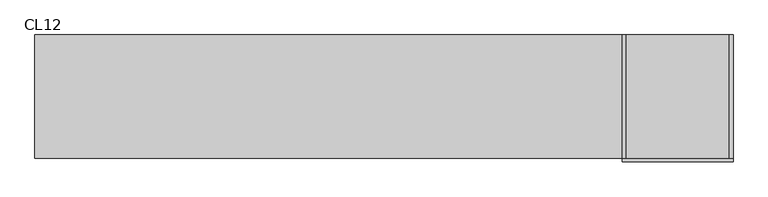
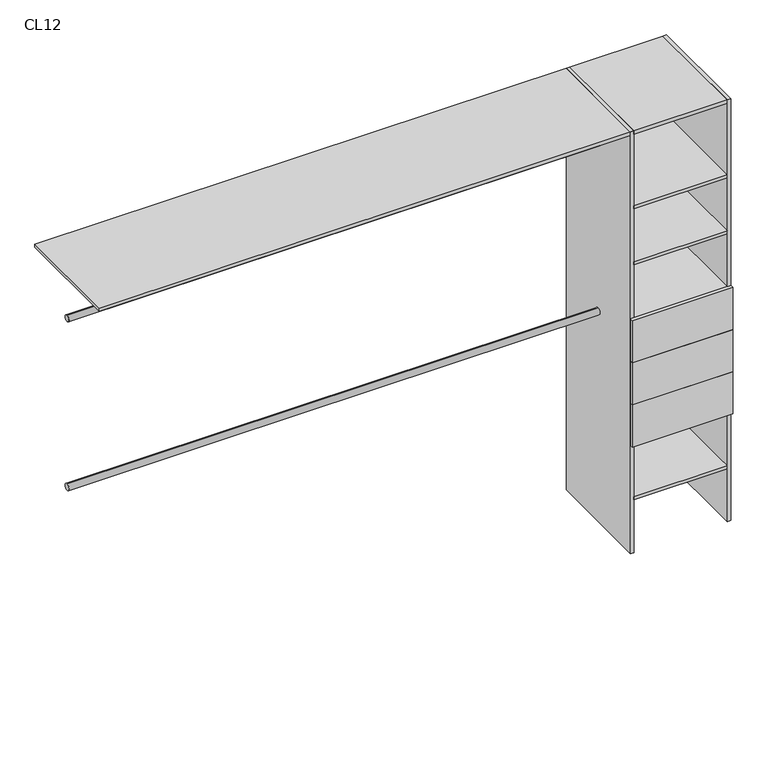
"""IFC4 building model written with IfcOpenShell, lengths in millimetres: furniture geometry, Closet 1estantes-1tubos_sin laterales : CL12."""

import ifcopenshell
import ifcopenshell.guid

model = None  # the IFC model being written
_history = None  # IfcOwnerHistory: only IFC2X3 demands one
_inside = {}  # id of a spatial element -> (the spatial element, [elements in it])
_under = {}  # id of a project, library or spatial element -> (it, [spatial elements below it])
_declared = {}  # id of a project -> (the project, [libraries it declares])
_typed = {}  # id of a type object -> (the type object, [elements of that type])
_made_of = {}  # id of a material, layer set ... -> (it, [elements and type objects made of it])


def new_model(schema):
    """Start an empty IFC model of exactly this schema.

    Asked for "IFC4X3", IfcOpenShell would pick the latest addendum, in which some entities
    have other attributes; the version numbers below select the first issue.
    IFC2X3 requires an IfcOwnerHistory on every rooted entity: one is made here for all.
    """
    global model, _history
    if schema == "IFC4X3":
        model = ifcopenshell.file(schema_version=(4, 3, 0, 0))
    else:
        model = ifcopenshell.file(schema=schema)
    _inside.clear()
    _under.clear()
    _declared.clear()
    _typed.clear()
    _made_of.clear()
    _history = None
    if model.schema == "IFC2X3":
        org = make("IfcOrganization", Name="unknown")
        user = make(
            "IfcPersonAndOrganization",
            ThePerson=make("IfcPerson", FamilyName="unknown"),
            TheOrganization=org,
        )
        app = make(
            "IfcApplication",
            ApplicationDeveloper=org,
            Version="unknown",
            ApplicationFullName="unknown",
            ApplicationIdentifier="unknown",
        )
        _history = make(
            "IfcOwnerHistory",
            OwningUser=user,
            OwningApplication=app,
            ChangeAction="ADDED",
            CreationDate=0,
        )
    return model


def make(cls, **values):
    """One entity of the class cls with the attributes given. An attribute that is None is left unset."""
    return model.create_entity(
        cls, **{name: value for name, value in values.items() if value is not None}
    )


def rooted(cls, **values):
    """An entity with a GlobalId (a new one), such as an element, a storey or a relation."""
    return make(cls, GlobalId=ifcopenshell.guid.new(), OwnerHistory=_history, **values)


def si_unit(unit_type, name, prefix=None):
    """IfcSIUnit, for example si_unit("LENGTHUNIT", "METRE", prefix="MILLI")."""
    return make("IfcSIUnit", UnitType=unit_type, Prefix=prefix, Name=name)


def assignment(units):
    """IfcUnitAssignment: the units of a project."""
    return None if units is None else make("IfcUnitAssignment", Units=units)


def point(xyz):
    """IfcCartesianPoint."""
    return None if xyz is None else make("IfcCartesianPoint", Coordinates=xyz)


def direction(xyz):
    """IfcDirection."""
    return None if xyz is None else make("IfcDirection", DirectionRatios=xyz)


def frame(location, z_axis=None, x_axis=None):
    """IfcAxis2Placement3D, a coordinate frame: its origin and axes. An axis left out is left unset."""
    return make(
        "IfcAxis2Placement3D",
        Location=point(location),
        Axis=direction(z_axis),
        RefDirection=direction(x_axis),
    )


def frame_2d(location, x_axis=None):
    """IfcAxis2Placement2D, a coordinate frame in the plane: its origin and x axis."""
    return make(
        "IfcAxis2Placement2D", Location=point(location), RefDirection=direction(x_axis)
    )


def origin():
    """The frame at (0, 0, 0) with its axes left unset."""
    return frame((0.0, 0.0, 0.0))


def origin_with_axes():
    """The frame at (0, 0, 0) with the z axis (0, 0, 1) and the x axis (1, 0, 0) written out."""
    return frame((0.0, 0.0, 0.0), z_axis=(0.0, 0.0, 1.0), x_axis=(1.0, 0.0, 0.0))


def place(relative_to, where):
    """IfcLocalPlacement: puts the frame where relative to a parent placement (None: the world)."""
    return make(
        "IfcLocalPlacement", PlacementRelTo=relative_to, RelativePlacement=where
    )


def context(
    kind, dimensions, precision=None, world=None, true_north=None, identifier=None
):
    """IfcGeometricRepresentationContext, for example the 3D "Model" context."""
    return make(
        "IfcGeometricRepresentationContext",
        ContextIdentifier=identifier,
        ContextType=kind,
        CoordinateSpaceDimension=dimensions,
        Precision=precision,
        WorldCoordinateSystem=world,
        TrueNorth=true_north,
    )


def project(units=None, contexts=None):
    """IfcProject with its units and contexts."""
    return rooted(
        "IfcProject",
        Name="project",
        RepresentationContexts=contexts,
        UnitsInContext=assignment(units),
    )


def spatial(cls, under=None, at=None, **own):
    """A site, building, storey or space (cls), placed at a placement, below another one or the project."""
    s = rooted(cls, ObjectPlacement=at, **own)
    if under is not None:
        _under.setdefault(under.id(), (under, []))[1].append(s)
    return s


def polyline(points):
    """IfcPolyline through the points."""
    return make("IfcPolyline", Points=[point(p) for p in points])


def circle_curve(where, radius):
    """IfcCircle in the frame where."""
    return make("IfcCircle", Position=where, Radius=radius)


def trimmed(basis, trim1, trim2, sense, master):
    """IfcTrimmedCurve: the piece of a basis curve between two trims."""
    return make(
        "IfcTrimmedCurve",
        BasisCurve=basis,
        Trim1=trim1,
        Trim2=trim2,
        SenseAgreement=sense,
        MasterRepresentation=master,
    )


def segment(curve, same_sense, transition):
    """IfcCompositeCurveSegment."""
    return make(
        "IfcCompositeCurveSegment",
        Transition=transition,
        SameSense=same_sense,
        ParentCurve=curve,
    )


def composite_curve(segments, self_intersect=None):
    """IfcCompositeCurve: segments joined end to end."""
    return make("IfcCompositeCurve", Segments=segments, SelfIntersect=self_intersect)


def outline(outer, holes=None, kind="AREA"):
    """IfcArbitraryClosedProfileDef: a profile drawn as a closed curve; with holes, ...WithVoids."""
    if holes is None:
        return make("IfcArbitraryClosedProfileDef", ProfileType=kind, OuterCurve=outer)
    return make(
        "IfcArbitraryProfileDefWithVoids",
        ProfileType=kind,
        OuterCurve=outer,
        InnerCurves=holes,
    )


def extrude(swept, where, along, depth):
    """IfcExtrudedAreaSolid: the profile swept, set in the frame where, extruded along a direction by depth."""
    return make(
        "IfcExtrudedAreaSolid",
        SweptArea=swept,
        Position=where,
        ExtrudedDirection=direction(along),
        Depth=depth,
    )


def shape(context_of_items, identifier, shape_type, items):
    """IfcShapeRepresentation: the items that make up one representation, for example the "Body"."""
    return make(
        "IfcShapeRepresentation",
        ContextOfItems=context_of_items,
        RepresentationIdentifier=identifier,
        RepresentationType=shape_type,
        Items=items,
    )


def source(mapping_origin, context_of_items, identifier, shape_type, items):
    """IfcRepresentationMap: a shape defined once, which mapped items show again and again."""
    return make(
        "IfcRepresentationMap",
        MappingOrigin=mapping_origin,
        MappedRepresentation=shape(context_of_items, identifier, shape_type, items),
    )


def transform(
    local_origin,
    x_axis=None,
    y_axis=None,
    z_axis=None,
    scale=None,
    scale2=None,
    scale3=None,
    uniform=True,
):
    """IfcCartesianTransformationOperator3D, or its non-uniform kind. x_axis, y_axis, z_axis: its Axis1, 2, 3."""
    if uniform:
        return make(
            "IfcCartesianTransformationOperator3D",
            Axis1=direction(x_axis),
            Axis2=direction(y_axis),
            LocalOrigin=point(local_origin),
            Scale=scale,
            Axis3=direction(z_axis),
        )
    return make(
        "IfcCartesianTransformationOperator3DnonUniform",
        Axis1=direction(x_axis),
        Axis2=direction(y_axis),
        LocalOrigin=point(local_origin),
        Scale=scale,
        Axis3=direction(z_axis),
        Scale2=scale2,
        Scale3=scale3,
    )


def mapped(mapping_source, mapping_target):
    """IfcMappedItem: shows the shape of a source again, moved by a transform."""
    return make(
        "IfcMappedItem", MappingSource=mapping_source, MappingTarget=mapping_target
    )


def made_of(thing, what):
    """Note that an element or type object is made of a material, layer set ...; save() writes the relation."""
    if what is not None:
        _made_of.setdefault(what.id(), (what, []))[1].append(thing)
    return thing


def element(
    cls,
    number,
    at=None,
    inside=None,
    cuts=None,
    type_object=None,
    material=None,
    context=None,
    identifier="Body",
    shape_type=None,
    held_by="IfcProductDefinitionShape",
    body=None,
    shapes=None,
    **own,
):
    """One element of the class cls, such as IfcWall. Its Tag is "e" and its number.

    at: its placement. inside: the storey or other place that contains it. cuts: it is an
    opening in that element (IfcRelVoidsElement). A single representation is given by context,
    identifier, shape_type and body (its items); several are given by shapes. held_by: the class
    of the entity that holds the representations. save() writes the other relations.
    """
    e = rooted(cls, Tag="e%d" % number, ObjectPlacement=at, **own)
    if body is not None:
        shapes = [shape(context, identifier, shape_type, body)]
    if shapes is not None:
        e.Representation = make(held_by, Representations=shapes)
    if inside is not None:
        _inside.setdefault(inside.id(), (inside, []))[1].append(e)
    if cuts is not None:
        rooted(
            "IfcRelVoidsElement", RelatingBuildingElement=cuts, RelatedOpeningElement=e
        )
    if type_object is not None:
        _typed.setdefault(type_object.id(), (type_object, []))[1].append(e)
    return made_of(e, material)


def aggregate(whole, parts):
    """IfcRelAggregates: a whole, such as a stair, and the parts it consists of."""
    return rooted("IfcRelAggregates", RelatingObject=whole, RelatedObjects=parts)


def save(model, path):
    """Write the relations noted so far, then the file.

    IfcRelAggregates (storeys below a building ...), IfcRelContainedInSpatialStructure (elements
    in a storey), IfcRelDefinesByType, IfcRelAssociatesMaterial and IfcRelDeclares: one each for
    every whole, place, type object, material and project.
    """
    for whole, parts in _under.values():
        aggregate(whole, parts)
    for where, things in _inside.values():
        rooted(
            "IfcRelContainedInSpatialStructure",
            RelatedElements=things,
            RelatingStructure=where,
        )
    for kind, things in _typed.values():
        rooted("IfcRelDefinesByType", RelatedObjects=things, RelatingType=kind)
    for what, things in _made_of.values():
        rooted("IfcRelAssociatesMaterial", RelatedObjects=things, RelatingMaterial=what)
    for by, libraries in _declared.values():
        rooted("IfcRelDeclares", RelatingContext=by, RelatedDefinitions=libraries)
    model.write(path)


def cl12_861f86d7(model_context):
    return source(origin(), model_context, "Body", "SweptSolid", [
        extrude(outline(polyline([(225.0, 100.0), (210.0, 100.0), (210.0, 600.0), (225.0, 600.0), (225.0, 100.0)])), origin_with_axes(), (0.0, 0.0, 1.0), 2000.0),
        extrude(outline(polyline([(-210.0, 100.0), (-225.0, 100.0), (-225.0, 600.0), (-210.0, 600.0), (-210.0, 100.0)])), origin_with_axes(), (0.0, 0.0, 1.0), 2000.0),
        extrude(outline(polyline([(225.0, 100.0), (225.0, 85.0), (-225.0, 85.0), (-225.0, 100.0), (225.0, 100.0)])), frame((0.0, 0.0, 915.0), z_axis=(0.0, 0.0, 1.0), x_axis=(1.0, 0.0, 0.0)), (0.0, 0.0, 1.0), 200.0),
        extrude(outline(polyline([(225.0, 100.0), (225.0, 85.0), (-225.0, 85.0), (-225.0, 100.0), (225.0, 100.0)])), frame((0.0, 0.0, 715.0), z_axis=(0.0, 0.0, 1.0), x_axis=(1.0, 0.0, 0.0)), (0.0, 0.0, 1.0), 200.0),
        extrude(outline(polyline([(225.0, 100.0), (225.0, 85.0), (-225.0, 85.0), (-225.0, 100.0), (225.0, 100.0)])), frame((0.0, 0.0, 515.0), z_axis=(0.0, 0.0, 1.0), x_axis=(1.0, 0.0, 0.0)), (0.0, 0.0, 1.0), 200.0),
        extrude(outline(polyline([(210.0, 100.0), (-210.0, 100.0), (-210.0, 600.0), (210.0, 600.0), (210.0, 100.0)])), frame((0.0, 0.0, 1100.0), z_axis=(0.0, 0.0, 1.0), x_axis=(1.0, 0.0, 0.0)), (0.0, 0.0, 1.0), 15.0),
        extrude(outline(composite_curve([segment(trimmed(circle_curve(frame_2d((350.0, 1000.0)), 15.0), [point((350.0, 1015.0))], [point((350.0, 985.0))], False, "CARTESIAN"), True, "CONTINUOUS"), segment(trimmed(circle_curve(frame_2d((350.0, 1000.0)), 15.0), [point((350.0, 985.0))], [point((350.0, 1015.0))], False, "CARTESIAN"), True, "CONTINUOUS")], self_intersect=False)), frame((-2610.0, 0.0, 0.0), z_axis=(1.0, 0.0, 0.0), x_axis=(0.0, 1.0, 0.0)), (0.0, 0.0, 1.0), 2385.0),
        extrude(outline(composite_curve([segment(trimmed(circle_curve(frame_2d((350.0, 1800.0)), 15.0), [point((350.0, 1815.0))], [point((350.0, 1785.0))], False, "CARTESIAN"), True, "CONTINUOUS"), segment(trimmed(circle_curve(frame_2d((350.0, 1800.0)), 15.0), [point((350.0, 1785.0))], [point((350.0, 1815.0))], False, "CARTESIAN"), True, "CONTINUOUS")], self_intersect=False)), frame((-2610.0, 0.0, 0.0), z_axis=(1.0, 0.0, 0.0), x_axis=(0.0, 1.0, 0.0)), (0.0, 0.0, 1.0), 2385.0),
        extrude(outline(polyline([(210.0, 100.0), (-210.0, 100.0), (-210.0, 600.0), (210.0, 600.0), (210.0, 100.0)])), frame((0.0, 0.0, 250.0), z_axis=(0.0, 0.0, 1.0), x_axis=(1.0, 0.0, 0.0)), (0.0, 0.0, 1.0), 15.0),
        extrude(outline(polyline([(210.0, 100.0), (-210.0, 100.0), (-210.0, 600.0), (210.0, 600.0), (210.0, 100.0)])), frame((0.0, 0.0, 515.0), z_axis=(0.0, 0.0, 1.0), x_axis=(1.0, 0.0, 0.0)), (0.0, 0.0, 1.0), 15.0),
        extrude(outline(polyline([(210.0, 100.0), (-210.0, 100.0), (-210.0, 600.0), (210.0, 600.0), (210.0, 100.0)])), frame((0.0, 0.0, 1365.0), z_axis=(0.0, 0.0, 1.0), x_axis=(1.0, 0.0, 0.0)), (0.0, 0.0, 1.0), 15.0),
        extrude(outline(polyline([(210.0, 100.0), (-210.0, 100.0), (-210.0, 600.0), (210.0, 600.0), (210.0, 100.0)])), frame((0.0, 0.0, 1630.0), z_axis=(0.0, 0.0, 1.0), x_axis=(1.0, 0.0, 0.0)), (0.0, 0.0, 1.0), 15.0),
        extrude(outline(polyline([(-210.0, 100.0), (-2610.0, 100.0), (-2610.0, 600.0), (-210.0, 600.0), (-210.0, 100.0)])), frame((0.0, 0.0, 1985.0), z_axis=(0.0, 0.0, 1.0), x_axis=(1.0, 0.0, 0.0)), (0.0, 0.0, 1.0), 15.0),
        extrude(outline(polyline([(210.0, 100.0), (-210.0, 100.0), (-210.0, 600.0), (210.0, 600.0), (210.0, 100.0)])), frame((0.0, 0.0, 1985.0), z_axis=(0.0, 0.0, 1.0), x_axis=(1.0, 0.0, 0.0)), (0.0, 0.0, 1.0), 15.0),
    ])


if __name__ == "__main__":
    model = new_model("IFC4")
    model_context = context("Model", 3, world=origin())
    ifc_project = project(units=[si_unit("LENGTHUNIT", "METRE", prefix="MILLI")], contexts=[model_context])
    site = spatial("IfcSite", under=ifc_project)
    building = spatial("IfcBuilding", under=site)
    placement = place(None, origin())
    cl12_shape = cl12_861f86d7(model_context)
    element("IfcFurniture", 1, ObjectType="Closet 1estantes-1tubos_sin laterales : CL12", at=placement, inside=building, context=model_context, shape_type="MappedRepresentation", body=[
        mapped(cl12_shape, transform((0.0, 0.0, 0.0), x_axis=(1.0, 0.0, 0.0), y_axis=(0.0, 1.0, 0.0), z_axis=(0.0, 0.0, 1.0))),
    ])
    save(model, "model.ifc")
